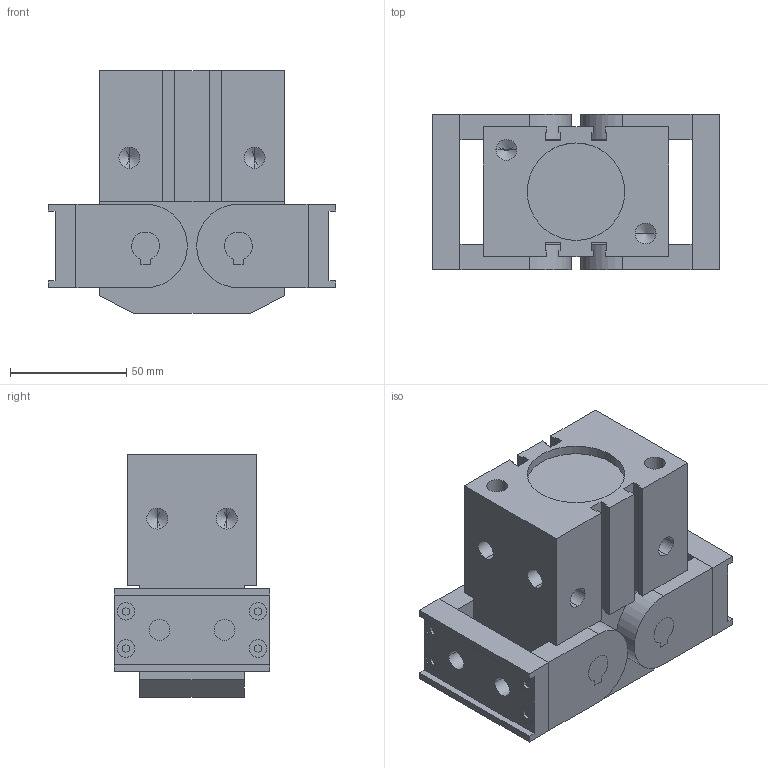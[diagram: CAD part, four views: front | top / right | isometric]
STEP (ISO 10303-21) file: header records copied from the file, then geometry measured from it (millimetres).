
FILE_DESCRIPTION (( 'STEP AP203' ), '1' );
FILE_NAME ('GHK 40 open.STEP', '2013-03-04T09:52:19', ( 'Conseil Régional Haute-Normandie' ), ( 'Conseil Régional Haute-Normandie' ), 'SwSTEP 2.0', 'SolidWorks 2010', '' );
FILE_SCHEMA (( 'CONFIG_CONTROL_DESIGN' ));
Length unit declared in the file: millimetre
Products named in the file (5): Pièce1  ghk_Default; GHK 40 open; Pièce2 ghk_Default; Pièce3 ghk_Default; Pièce5 GHK 40_Default
Assembly tree (9 placements, depth 2):
  GHK 40 open
    Pièce2 ghk_Default  x2
    Pièce1  ghk_Default
    Pièce5 GHK 40_Default  x4
    Pièce3 ghk_Default  x2
Bounding box: 124 x 67 x 104.5 mm (x, y, z)
Volume: 510732.3 mm3; surface area: 83443.7 mm2
Topology: 9 solids, 9 shells, 275 faces, 680 edges, 434 vertices
Faces by surface type: plane 189, cylinder 66, cone 20
Entity records: 5807 total; most frequent: CARTESIAN_POINT 893, DIRECTION 892, ORIENTED_EDGE 852, EDGE_CURVE 426, VECTOR 338, LINE 338, VERTEX_POINT 278, AXIS2_PLACEMENT_3D 277
